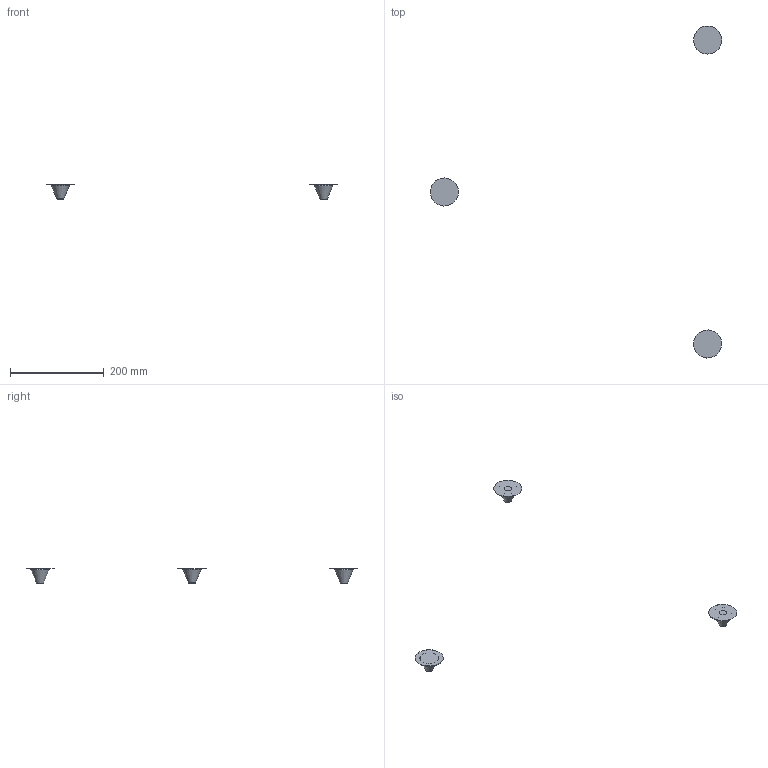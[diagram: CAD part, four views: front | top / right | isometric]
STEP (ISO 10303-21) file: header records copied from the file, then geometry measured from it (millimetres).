
FILE_DESCRIPTION(/* description */ ('Unknown'),/* implementation_level */ '2;1');
FILE_NAME(/* name */ '64575',/* time_stamp */ '2023-02-07T11:25:55-05:00',/* author */ ('Unknown'),/* organization */ ('Unknown'),/* preprocessor_version */ 'ST-DEVELOPER v18.1',/* originating_system */ 'Solid Edge',/* authorisation */ 'Unknown');
FILE_SCHEMA (('AUTOMOTIVE_DESIGN {1 0 10303 214 3 1 1}'));
Length unit declared in the file: millimetre
Products named in the file (1): 64575
Bounding box: 622.48 x 709.48 x 32 mm (x, y, z)
Volume: 65868.5 mm3; surface area: 27028.2 mm2
Topology: 3 solids, 3 shells, 28 faces, 44 edges, 28 vertices
Faces by surface type: plane 12, torus 7, cylinder 6, cone 3
Full cylindrical faces by diameter (mm): 12.4 x1, 16 x2, 60 x3
Entity records: 574 total; most frequent: DIRECTION 108, CARTESIAN_POINT 79, AXIS2_PLACEMENT_3D 54, ORIENTED_EDGE 50, EDGE_LOOP 50, FACE_BOUND 50, ADVANCED_FACE 28, EDGE_CURVE 25
